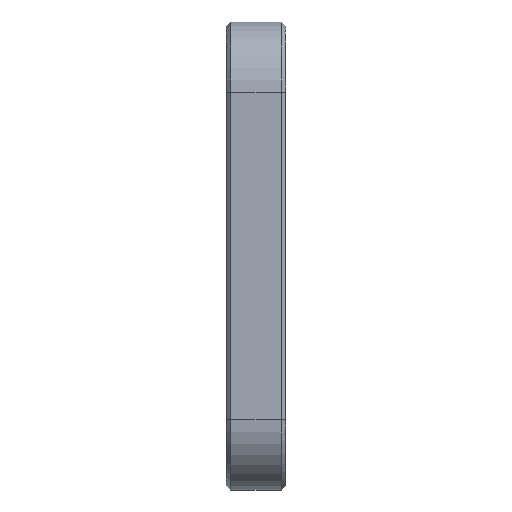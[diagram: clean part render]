
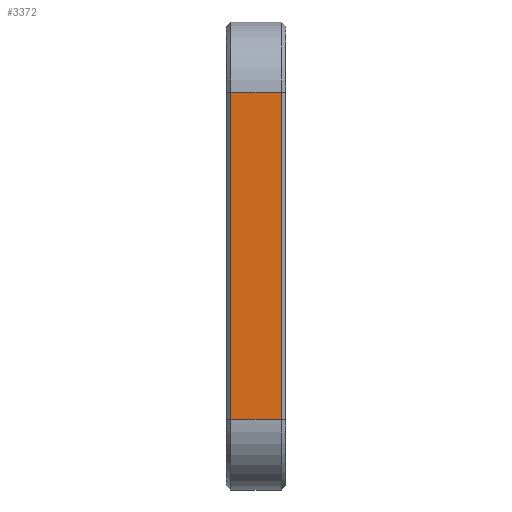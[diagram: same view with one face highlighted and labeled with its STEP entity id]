
A CAD part, left-side view. The second image highlights one B-rep face of the part: STEP entity #3372.
In plain terms, the highlighted planar face has unit normal (-1, 0, 0).
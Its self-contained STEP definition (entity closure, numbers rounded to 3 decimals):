
#120 = LINE ( 'NONE', #6757, #442 ) ;
#130 = AXIS2_PLACEMENT_3D ( 'NONE', #7120, #6527, #6356 ) ;
#333 = CARTESIAN_POINT ( 'NONE',  ( -70.065, 16.427, 17.5 ) ) ;
#442 = VECTOR ( 'NONE', #7421, 1000. ) ;
#940 = ORIENTED_EDGE ( 'NONE', *, *, #5440, .T. ) ;
#1295 = LINE ( 'NONE', #4173, #9026 ) ;
#1522 = DIRECTION ( 'NONE',  ( 0., 0., -1. ) ) ;
#2099 = LINE ( 'NONE', #4978, #6297 ) ;
#2618 = CARTESIAN_POINT ( 'NONE',  ( -70.065, 21.827, 17.5 ) ) ;
#2726 = DIRECTION ( 'NONE',  ( 0., 1., 0. ) ) ;
#3065 = VERTEX_POINT ( 'NONE', #4746 ) ;
#3231 = VERTEX_POINT ( 'NONE', #2618 ) ;
#3262 = VERTEX_POINT ( 'NONE', #9152 ) ;
#3372 = ADVANCED_FACE ( 'NONE', ( #3488 ), #5781, .F. ) ;
#3444 = VECTOR ( 'NONE', #5008, 1000. ) ;
#3488 = FACE_OUTER_BOUND ( 'NONE', #7974, .T. ) ;
#3707 = EDGE_CURVE ( 'NONE', #3262, #3065, #5853, .T. ) ;
#3730 = CARTESIAN_POINT ( 'NONE',  ( -70.065, 22.327, -17.5 ) ) ;
#3738 = VERTEX_POINT ( 'NONE', #333 ) ;
#3852 = EDGE_CURVE ( 'NONE', #3231, #3262, #2099, .T. ) ;
#4150 = ORIENTED_EDGE ( 'NONE', *, *, #7689, .T. ) ;
#4173 = CARTESIAN_POINT ( 'NONE',  ( -70.065, 22.327, 17.5 ) ) ;
#4500 = ORIENTED_EDGE ( 'NONE', *, *, #3707, .T. ) ;
#4746 = CARTESIAN_POINT ( 'NONE',  ( -70.065, 16.427, -17.5 ) ) ;
#4978 = CARTESIAN_POINT ( 'NONE',  ( -70.065, 21.827, -25. ) ) ;
#5008 = DIRECTION ( 'NONE',  ( 0., -1., 0. ) ) ;
#5440 = EDGE_CURVE ( 'NONE', #3065, #3738, #120, .T. ) ;
#5781 = PLANE ( 'NONE',  #130 ) ;
#5853 = LINE ( 'NONE', #3730, #3444 ) ;
#6297 = VECTOR ( 'NONE', #1522, 1000. ) ;
#6356 = DIRECTION ( 'NONE',  ( 0., 0., -1. ) ) ;
#6527 = DIRECTION ( 'NONE',  ( 1., 0., 0. ) ) ;
#6757 = CARTESIAN_POINT ( 'NONE',  ( -70.065, 16.427, 17.5 ) ) ;
#7120 = CARTESIAN_POINT ( 'NONE',  ( -70.065, 22.327, -25. ) ) ;
#7421 = DIRECTION ( 'NONE',  ( 0., 0., 1. ) ) ;
#7689 = EDGE_CURVE ( 'NONE', #3738, #3231, #1295, .T. ) ;
#7974 = EDGE_LOOP ( 'NONE', ( #4500, #940, #4150, #9058 ) ) ;
#9026 = VECTOR ( 'NONE', #2726, 1000. ) ;
#9058 = ORIENTED_EDGE ( 'NONE', *, *, #3852, .T. ) ;
#9152 = CARTESIAN_POINT ( 'NONE',  ( -70.065, 21.827, -17.5 ) ) ;
